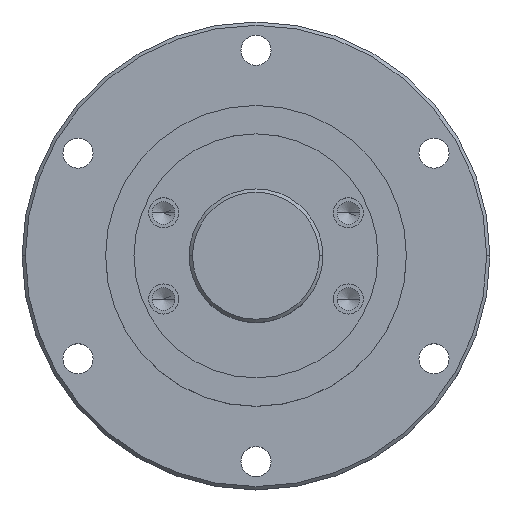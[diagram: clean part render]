
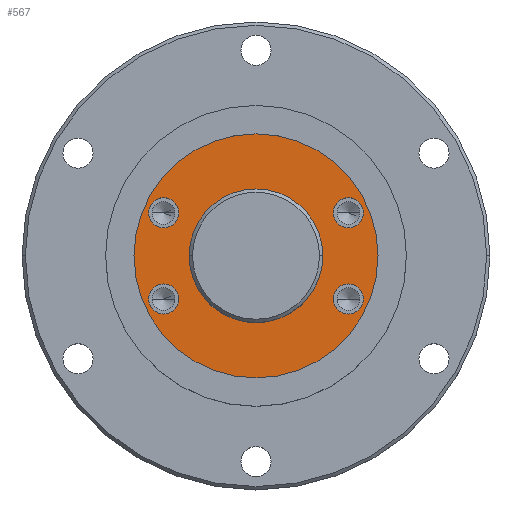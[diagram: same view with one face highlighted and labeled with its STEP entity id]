
A CAD part, top view. The second image highlights one B-rep face of the part: STEP entity #567.
In plain terms, the highlighted planar face has unit normal (0, 0, 1).
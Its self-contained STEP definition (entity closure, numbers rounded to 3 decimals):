
#35 = DIRECTION ( 'NONE',  ( 1., 0., 0. ) ) ;
#74 = VERTEX_POINT ( 'NONE', #1090 ) ;
#125 = VERTEX_POINT ( 'NONE', #746 ) ;
#150 = CIRCLE ( 'NONE', #4079, 36.5 ) ;
#202 = EDGE_LOOP ( 'NONE', ( #4459, #4047 ) ) ;
#304 = DIRECTION ( 'NONE',  ( 1., 0., 0. ) ) ;
#342 = FACE_BOUND ( 'NONE', #202, .T. ) ;
#343 = VERTEX_POINT ( 'NONE', #4591 ) ;
#387 = AXIS2_PLACEMENT_3D ( 'NONE', #3725, #1514, #4086 ) ;
#428 = VERTEX_POINT ( 'NONE', #958 ) ;
#459 = FACE_BOUND ( 'NONE', #4262, .T. ) ;
#504 = ORIENTED_EDGE ( 'NONE', *, *, #2623, .F. ) ;
#508 = CARTESIAN_POINT ( 'NONE',  ( 27.642, -12.89, 0. ) ) ;
#518 = EDGE_CURVE ( 'NONE', #125, #1782, #1601, .T. ) ;
#559 = VERTEX_POINT ( 'NONE', #4020 ) ;
#567 = ADVANCED_FACE ( 'NONE', ( #459, #3358, #2352, #1345, #342, #4279 ), #1844, .F. ) ;
#568 = CARTESIAN_POINT ( 'NONE',  ( 27.642, 12.89, 0. ) ) ;
#635 = EDGE_LOOP ( 'NONE', ( #3109, #3613 ) ) ;
#701 = CARTESIAN_POINT ( 'NONE',  ( 0., 36.5, 0. ) ) ;
#731 = AXIS2_PLACEMENT_3D ( 'NONE', #3369, #1102, #3711 ) ;
#746 = CARTESIAN_POINT ( 'NONE',  ( -20., 0., 0. ) ) ;
#755 = CARTESIAN_POINT ( 'NONE',  ( 32.142, -12.89, 0. ) ) ;
#839 = ORIENTED_EDGE ( 'NONE', *, *, #1718, .T. ) ;
#884 = DIRECTION ( 'NONE',  ( 1., 0., 0. ) ) ;
#904 = EDGE_LOOP ( 'NONE', ( #504, #3910 ) ) ;
#920 = CIRCLE ( 'NONE', #1506, 20. ) ;
#946 = DIRECTION ( 'NONE',  ( 1., 0., 0. ) ) ;
#958 = CARTESIAN_POINT ( 'NONE',  ( -23.142, -12.89, 0. ) ) ;
#971 = CARTESIAN_POINT ( 'NONE',  ( 23.142, 12.89, 0. ) ) ;
#1042 = DIRECTION ( 'NONE',  ( 0., 0., 1. ) ) ;
#1090 = CARTESIAN_POINT ( 'NONE',  ( 36.5, 0., 0. ) ) ;
#1102 = DIRECTION ( 'NONE',  ( 0., 0., 1. ) ) ;
#1110 = CARTESIAN_POINT ( 'NONE',  ( -27.642, -12.89, 0. ) ) ;
#1113 = VERTEX_POINT ( 'NONE', #3196 ) ;
#1164 = EDGE_CURVE ( 'NONE', #3240, #343, #3195, .T. ) ;
#1327 = EDGE_LOOP ( 'NONE', ( #1337, #1630 ) ) ;
#1329 = CIRCLE ( 'NONE', #2543, 4.5 ) ;
#1337 = ORIENTED_EDGE ( 'NONE', *, *, #2569, .F. ) ;
#1345 = FACE_BOUND ( 'NONE', #904, .T. ) ;
#1419 = DIRECTION ( 'NONE',  ( 0., 0., 1. ) ) ;
#1504 = DIRECTION ( 'NONE',  ( -1., 0., 0. ) ) ;
#1506 = AXIS2_PLACEMENT_3D ( 'NONE', #4730, #2585, #304 ) ;
#1514 = DIRECTION ( 'NONE',  ( 0., 0., 1. ) ) ;
#1557 = AXIS2_PLACEMENT_3D ( 'NONE', #701, #4398, #2223 ) ;
#1589 = CIRCLE ( 'NONE', #387, 4.5 ) ;
#1601 = CIRCLE ( 'NONE', #2567, 20. ) ;
#1630 = ORIENTED_EDGE ( 'NONE', *, *, #3291, .F. ) ;
#1709 = ORIENTED_EDGE ( 'NONE', *, *, #518, .F. ) ;
#1711 = DIRECTION ( 'NONE',  ( 0., 0., 1. ) ) ;
#1718 = EDGE_CURVE ( 'NONE', #74, #1913, #150, .T. ) ;
#1782 = VERTEX_POINT ( 'NONE', #2596 ) ;
#1844 = PLANE ( 'NONE',  #1557 ) ;
#1856 = ORIENTED_EDGE ( 'NONE', *, *, #2533, .F. ) ;
#1896 = AXIS2_PLACEMENT_3D ( 'NONE', #1110, #3722, #1504 ) ;
#1907 = EDGE_LOOP ( 'NONE', ( #839, #3563 ) ) ;
#1913 = VERTEX_POINT ( 'NONE', #3057 ) ;
#2025 = AXIS2_PLACEMENT_3D ( 'NONE', #4448, #2284, #4800 ) ;
#2146 = DIRECTION ( 'NONE',  ( 0., 0., 1. ) ) ;
#2223 = DIRECTION ( 'NONE',  ( -1., 0., 0. ) ) ;
#2284 = DIRECTION ( 'NONE',  ( 0., 0., 1. ) ) ;
#2315 = DIRECTION ( 'NONE',  ( 0., 0., 1. ) ) ;
#2352 = FACE_BOUND ( 'NONE', #635, .T. ) ;
#2428 = EDGE_CURVE ( 'NONE', #1113, #2643, #3605, .T. ) ;
#2457 = VERTEX_POINT ( 'NONE', #2803 ) ;
#2490 = EDGE_CURVE ( 'NONE', #1913, #74, #4217, .T. ) ;
#2491 = VERTEX_POINT ( 'NONE', #3219 ) ;
#2506 = CIRCLE ( 'NONE', #1896, 4.5 ) ;
#2533 = EDGE_CURVE ( 'NONE', #1782, #125, #920, .T. ) ;
#2543 = AXIS2_PLACEMENT_3D ( 'NONE', #4478, #2315, #35 ) ;
#2567 = AXIS2_PLACEMENT_3D ( 'NONE', #3978, #1419, #4001 ) ;
#2569 = EDGE_CURVE ( 'NONE', #559, #2491, #4600, .T. ) ;
#2585 = DIRECTION ( 'NONE',  ( 0., 0., 1. ) ) ;
#2596 = CARTESIAN_POINT ( 'NONE',  ( 20., 0., 0. ) ) ;
#2597 = EDGE_CURVE ( 'NONE', #428, #2457, #1589, .T. ) ;
#2623 = EDGE_CURVE ( 'NONE', #2643, #1113, #4376, .T. ) ;
#2643 = VERTEX_POINT ( 'NONE', #755 ) ;
#2663 = EDGE_CURVE ( 'NONE', #343, #3240, #1329, .T. ) ;
#2771 = AXIS2_PLACEMENT_3D ( 'NONE', #3912, #1711, #4271 ) ;
#2803 = CARTESIAN_POINT ( 'NONE',  ( -32.142, -12.89, 0. ) ) ;
#3057 = CARTESIAN_POINT ( 'NONE',  ( -36.5, 0., 0. ) ) ;
#3109 = ORIENTED_EDGE ( 'NONE', *, *, #2597, .F. ) ;
#3166 = DIRECTION ( 'NONE',  ( 0., 0., 1. ) ) ;
#3181 = AXIS2_PLACEMENT_3D ( 'NONE', #568, #3220, #946 ) ;
#3195 = CIRCLE ( 'NONE', #3181, 4.5 ) ;
#3196 = CARTESIAN_POINT ( 'NONE',  ( 23.142, -12.89, 0. ) ) ;
#3219 = CARTESIAN_POINT ( 'NONE',  ( -32.142, 12.89, 0. ) ) ;
#3220 = DIRECTION ( 'NONE',  ( 0., 0., 1. ) ) ;
#3240 = VERTEX_POINT ( 'NONE', #971 ) ;
#3281 = CIRCLE ( 'NONE', #3426, 4.5 ) ;
#3291 = EDGE_CURVE ( 'NONE', #2491, #559, #3281, .T. ) ;
#3315 = CARTESIAN_POINT ( 'NONE',  ( 0., 0., 0. ) ) ;
#3358 = FACE_BOUND ( 'NONE', #1327, .T. ) ;
#3369 = CARTESIAN_POINT ( 'NONE',  ( -27.642, 12.89, 0. ) ) ;
#3426 = AXIS2_PLACEMENT_3D ( 'NONE', #4321, #2146, #4684 ) ;
#3563 = ORIENTED_EDGE ( 'NONE', *, *, #2490, .T. ) ;
#3605 = CIRCLE ( 'NONE', #4443, 4.5 ) ;
#3613 = ORIENTED_EDGE ( 'NONE', *, *, #3780, .F. ) ;
#3652 = DIRECTION ( 'NONE',  ( 1., 0., 0. ) ) ;
#3711 = DIRECTION ( 'NONE',  ( -1., 0., 0. ) ) ;
#3722 = DIRECTION ( 'NONE',  ( 0., 0., 1. ) ) ;
#3725 = CARTESIAN_POINT ( 'NONE',  ( -27.642, -12.89, 0. ) ) ;
#3780 = EDGE_CURVE ( 'NONE', #2457, #428, #2506, .T. ) ;
#3910 = ORIENTED_EDGE ( 'NONE', *, *, #2428, .F. ) ;
#3912 = CARTESIAN_POINT ( 'NONE',  ( 0., 0., 0. ) ) ;
#3978 = CARTESIAN_POINT ( 'NONE',  ( 0., 0., 0. ) ) ;
#4001 = DIRECTION ( 'NONE',  ( 1., 0., 0. ) ) ;
#4020 = CARTESIAN_POINT ( 'NONE',  ( -23.142, 12.89, 0. ) ) ;
#4047 = ORIENTED_EDGE ( 'NONE', *, *, #1164, .F. ) ;
#4079 = AXIS2_PLACEMENT_3D ( 'NONE', #3315, #1042, #3652 ) ;
#4086 = DIRECTION ( 'NONE',  ( -1., 0., 0. ) ) ;
#4217 = CIRCLE ( 'NONE', #2771, 36.5 ) ;
#4262 = EDGE_LOOP ( 'NONE', ( #1856, #1709 ) ) ;
#4271 = DIRECTION ( 'NONE',  ( 1., 0., 0. ) ) ;
#4279 = FACE_OUTER_BOUND ( 'NONE', #1907, .T. ) ;
#4321 = CARTESIAN_POINT ( 'NONE',  ( -27.642, 12.89, 0. ) ) ;
#4376 = CIRCLE ( 'NONE', #2025, 4.5 ) ;
#4398 = DIRECTION ( 'NONE',  ( 0., 0., -1. ) ) ;
#4443 = AXIS2_PLACEMENT_3D ( 'NONE', #508, #3166, #884 ) ;
#4448 = CARTESIAN_POINT ( 'NONE',  ( 27.642, -12.89, 0. ) ) ;
#4459 = ORIENTED_EDGE ( 'NONE', *, *, #2663, .F. ) ;
#4478 = CARTESIAN_POINT ( 'NONE',  ( 27.642, 12.89, 0. ) ) ;
#4591 = CARTESIAN_POINT ( 'NONE',  ( 32.142, 12.89, 0. ) ) ;
#4600 = CIRCLE ( 'NONE', #731, 4.5 ) ;
#4684 = DIRECTION ( 'NONE',  ( -1., 0., 0. ) ) ;
#4730 = CARTESIAN_POINT ( 'NONE',  ( 0., 0., 0. ) ) ;
#4800 = DIRECTION ( 'NONE',  ( 1., 0., 0. ) ) ;
